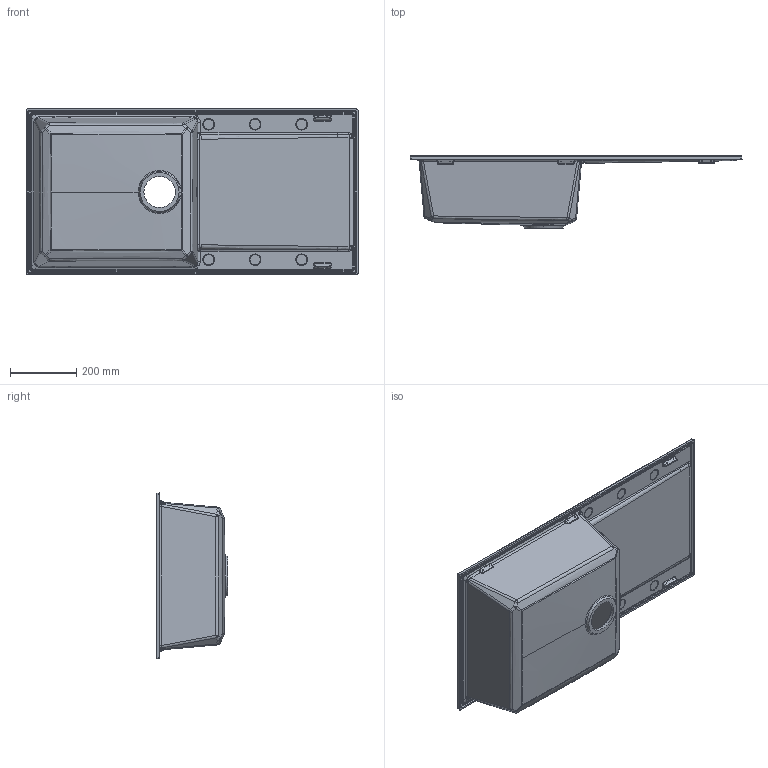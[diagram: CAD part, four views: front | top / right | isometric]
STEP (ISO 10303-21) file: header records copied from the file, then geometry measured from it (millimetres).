
FILE_DESCRIPTION (( 'STEP AP203' ), '1' );
FILE_NAME ('Easy 480.STEP', '2018-10-11T10:52:00', ( '' ), ( '' ), 'SwSTEP 2.0', 'SolidWorks 2013', '' );
FILE_SCHEMA (( 'CONFIG_CONTROL_DESIGN' ));
Length unit declared in the file: millimetre
Products named in the file (1): Easy 480
Bounding box: 1000 x 216.85 x 500 mm (x, y, z)
Volume: 6433119.6 mm3; surface area: 1605760.7 mm2
Topology: 1 solids, 1 shells, 609 faces, 1412 edges, 796 vertices
Faces by surface type: bspline 256, cylinder 199, plane 68, sphere 42, cone 34, torus 10
Entity records: 24585 total; most frequent: CARTESIAN_POINT 12793, ORIENTED_EDGE 2740, DIRECTION 2141, EDGE_CURVE 1370, AXIS2_PLACEMENT_3D 895, VERTEX_POINT 792, EDGE_LOOP 642, FACE_OUTER_BOUND 609
